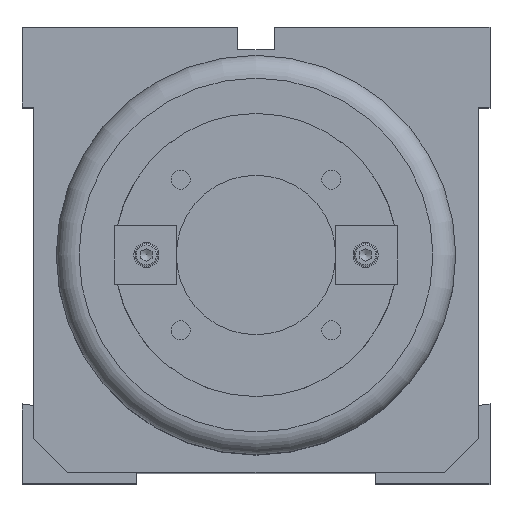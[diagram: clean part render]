
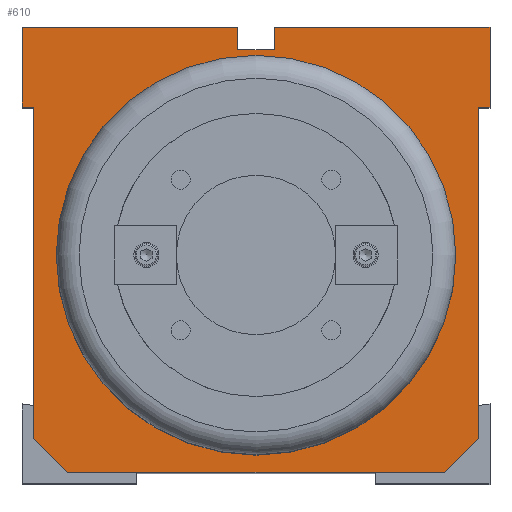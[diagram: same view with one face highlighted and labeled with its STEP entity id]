
A CAD part, top view. The second image highlights one B-rep face of the part: STEP entity #610.
In plain terms, the highlighted planar face has unit normal (0, 0, 1).
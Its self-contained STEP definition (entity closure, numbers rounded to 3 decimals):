
#610=ADVANCED_FACE('',(#2164,#2166),#2168,.T.);
#2164=FACE_BOUND('',#2165,.T.);
#2165=EDGE_LOOP('',(#3517,#3518,#3519,#3520,#3521,#3522,#3523,#3524,#3525,#3526,
#3527,#3528,#3529,#3530));
#2166=FACE_BOUND('',#2167,.T.);
#2167=EDGE_LOOP('',(#3531));
#2168=PLANE('',#2169);
#2169=AXIS2_PLACEMENT_3D('',#2170,#2171,#2172);
#2170=CARTESIAN_POINT('',(0.,0.,152.5));
#2171=DIRECTION('',(0.,0.,1.));
#2172=DIRECTION('',(1.,0.,0.));
#3517=ORIENTED_EDGE('',*,*,#4165,.T.);
#3518=ORIENTED_EDGE('',*,*,#4166,.T.);
#3519=ORIENTED_EDGE('',*,*,#4167,.T.);
#3520=ORIENTED_EDGE('',*,*,#4168,.T.);
#3521=ORIENTED_EDGE('',*,*,#4122,.T.);
#3522=ORIENTED_EDGE('',*,*,#4163,.F.);
#3523=ORIENTED_EDGE('',*,*,#4160,.T.);
#3524=ORIENTED_EDGE('',*,*,#4161,.F.);
#3525=ORIENTED_EDGE('',*,*,#4152,.T.);
#3526=ORIENTED_EDGE('',*,*,#4169,.T.);
#3527=ORIENTED_EDGE('',*,*,#4170,.T.);
#3528=ORIENTED_EDGE('',*,*,#4171,.T.);
#3529=ORIENTED_EDGE('',*,*,#4172,.T.);
#3530=ORIENTED_EDGE('',*,*,#4173,.T.);
#3531=ORIENTED_EDGE('',*,*,#4174,.F.);
#4122=EDGE_CURVE('',#4575,#4573,#4576,.F.);
#4152=EDGE_CURVE('',#4620,#4622,#4624,.T.);
#4160=EDGE_CURVE('',#4626,#4634,#4636,.T.);
#4161=EDGE_CURVE('',#4620,#4634,#4637,.F.);
#4163=EDGE_CURVE('',#4626,#4573,#4639,.F.);
#4165=EDGE_CURVE('',#4641,#4642,#4643,.F.);
#4166=EDGE_CURVE('',#4642,#4644,#4645,.T.);
#4167=EDGE_CURVE('',#4644,#4646,#4647,.T.);
#4168=EDGE_CURVE('',#4646,#4575,#4648,.T.);
#4169=EDGE_CURVE('',#4622,#4649,#4650,.F.);
#4170=EDGE_CURVE('',#4649,#4651,#4652,.T.);
#4171=EDGE_CURVE('',#4651,#4653,#4654,.T.);
#4172=EDGE_CURVE('',#4653,#4655,#4656,.F.);
#4173=EDGE_CURVE('',#4655,#4641,#4657,.T.);
#4174=EDGE_CURVE('',#4658,#4658,#4659,.T.);
#4573=VERTEX_POINT('',#5437);
#4575=VERTEX_POINT('',#5441);
#4576=LINE('',#5442,#5443);
#4620=VERTEX_POINT('',#5542);
#4622=VERTEX_POINT('',#5546);
#4624=LINE('',#5550,#5551);
#4626=VERTEX_POINT('',#5556);
#4634=VERTEX_POINT('',#5574);
#4636=LINE('',#5578,#5579);
#4637=LINE('',#5581,#5582);
#4639=LINE('',#5587,#5588);
#4641=VERTEX_POINT('',#5593);
#4642=VERTEX_POINT('',#5594);
#4643=LINE('',#5595,#5596);
#4644=VERTEX_POINT('',#5598);
#4645=LINE('',#5599,#5600);
#4646=VERTEX_POINT('',#5602);
#4647=LINE('',#5603,#5604);
#4648=LINE('',#5606,#5607);
#4649=VERTEX_POINT('',#5609);
#4650=LINE('',#5610,#5611);
#4651=VERTEX_POINT('',#5613);
#4652=LINE('',#5614,#5615);
#4653=VERTEX_POINT('',#5617);
#4654=LINE('',#5618,#5619);
#4655=VERTEX_POINT('',#5621);
#4656=LINE('',#5622,#5623);
#4657=LINE('',#5625,#5626);
#4658=VERTEX_POINT('',#5628);
#4659=CIRCLE('',#5629,87.5);
#5437=CARTESIAN_POINT('',(-97.5,-80.,152.5));
#5441=CARTESIAN_POINT('',(-97.5,65.,152.5));
#5442=CARTESIAN_POINT('',(-97.5,-80.,152.5));
#5443=VECTOR('',#5444,1.);
#5444=DIRECTION('',(0.,1.,0.));
#5542=CARTESIAN_POINT('',(97.5,-80.,152.5));
#5546=CARTESIAN_POINT('',(97.5,65.,152.5));
#5550=CARTESIAN_POINT('',(97.5,-80.,152.5));
#5551=VECTOR('',#5552,1.);
#5552=DIRECTION('',(0.,1.,0.));
#5556=CARTESIAN_POINT('',(-82.5,-95.,152.5));
#5574=CARTESIAN_POINT('',(82.5,-95.,152.5));
#5578=CARTESIAN_POINT('',(-82.5,-95.,152.5));
#5579=VECTOR('',#5580,1.);
#5580=DIRECTION('',(1.,0.,0.));
#5581=CARTESIAN_POINT('',(82.5,-95.,152.5));
#5582=VECTOR('',#5583,1.);
#5583=DIRECTION('',(0.707,0.707,0.));
#5587=CARTESIAN_POINT('',(-97.5,-80.,152.5));
#5588=VECTOR('',#5589,1.);
#5589=DIRECTION('',(0.707,-0.707,0.));
#5593=CARTESIAN_POINT('',(-8.,90.,152.5));
#5594=CARTESIAN_POINT('',(-8.,100.,152.5));
#5595=CARTESIAN_POINT('',(-8.,100.,152.5));
#5596=VECTOR('',#5597,1.);
#5597=DIRECTION('',(0.,-1.,0.));
#5598=CARTESIAN_POINT('',(-102.5,100.,152.5));
#5599=CARTESIAN_POINT('',(-8.,100.,152.5));
#5600=VECTOR('',#5601,1.);
#5601=DIRECTION('',(-1.,0.,0.));
#5602=CARTESIAN_POINT('',(-102.5,65.,152.5));
#5603=CARTESIAN_POINT('',(-102.5,100.,152.5));
#5604=VECTOR('',#5605,1.);
#5605=DIRECTION('',(0.,-1.,0.));
#5606=CARTESIAN_POINT('',(-102.5,65.,152.5));
#5607=VECTOR('',#5608,1.);
#5608=DIRECTION('',(1.,0.,0.));
#5609=CARTESIAN_POINT('',(102.5,65.,152.5));
#5610=CARTESIAN_POINT('',(102.5,65.,152.5));
#5611=VECTOR('',#5612,1.);
#5612=DIRECTION('',(-1.,0.,0.));
#5613=CARTESIAN_POINT('',(102.5,100.,152.5));
#5614=CARTESIAN_POINT('',(102.5,65.,152.5));
#5615=VECTOR('',#5616,1.);
#5616=DIRECTION('',(0.,1.,0.));
#5617=CARTESIAN_POINT('',(8.,100.,152.5));
#5618=CARTESIAN_POINT('',(102.5,100.,152.5));
#5619=VECTOR('',#5620,1.);
#5620=DIRECTION('',(-1.,0.,0.));
#5621=CARTESIAN_POINT('',(8.,90.,152.5));
#5622=CARTESIAN_POINT('',(8.,90.,152.5));
#5623=VECTOR('',#5624,1.);
#5624=DIRECTION('',(0.,1.,0.));
#5625=CARTESIAN_POINT('',(8.,90.,152.5));
#5626=VECTOR('',#5627,1.);
#5627=DIRECTION('',(-1.,0.,0.));
#5628=CARTESIAN_POINT('',(87.5,0.,152.5));
#5629=AXIS2_PLACEMENT_3D('',#5630,#5631,#5632);
#5630=CARTESIAN_POINT('',(0.,0.,152.5));
#5631=DIRECTION('',(0.,0.,1.));
#5632=DIRECTION('',(1.,0.,0.));
